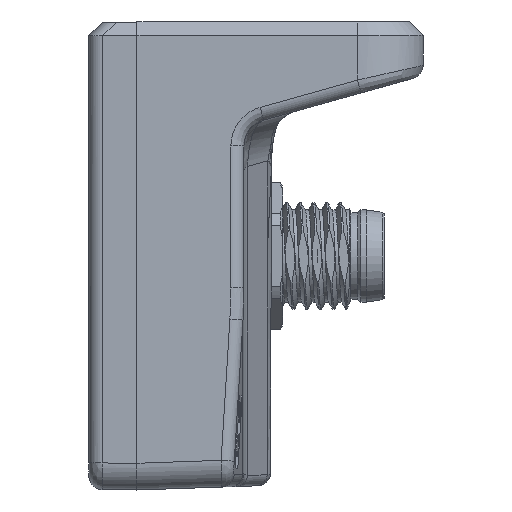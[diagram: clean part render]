
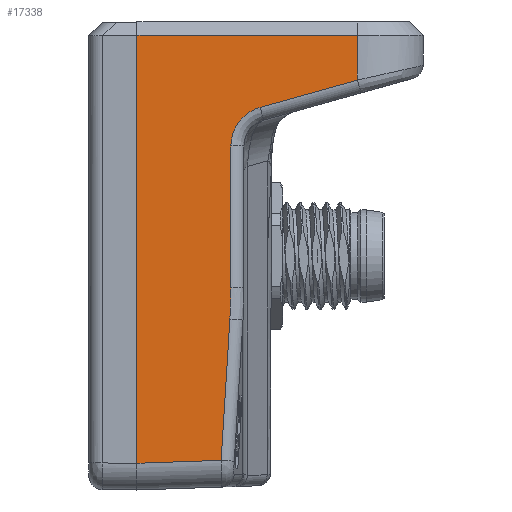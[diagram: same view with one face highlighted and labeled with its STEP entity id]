
A CAD part, left-side view. The second image highlights one B-rep face of the part: STEP entity #17338.
In plain terms, the highlighted planar face has unit normal (-1, -0.018, 0).
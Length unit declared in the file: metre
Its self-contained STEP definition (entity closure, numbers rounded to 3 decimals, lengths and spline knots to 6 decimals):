
#753=ELLIPSE('',#18669,0.026874,0.019);
#754=ELLIPSE('',#18670,0.003,0.003);
#1148=LINE('',#26319,#2844);
#1162=LINE('',#26378,#2858);
#1163=LINE('',#26381,#2859);
#1164=LINE('',#26382,#2860);
#1165=LINE('',#26384,#2861);
#1166=LINE('',#26388,#2862);
#1167=LINE('',#26392,#2863);
#2844=VECTOR('',#20974,1.);
#2858=VECTOR('',#21004,1.);
#2859=VECTOR('',#21005,1.);
#2860=VECTOR('',#21006,1.);
#2861=VECTOR('',#21007,1.);
#2862=VECTOR('',#21010,1.);
#2863=VECTOR('',#21013,1.);
#5062=ORIENTED_EDGE('',*,*,#9915,.T.);
#5063=ORIENTED_EDGE('',*,*,#9916,.T.);
#5064=ORIENTED_EDGE('',*,*,#9892,.T.);
#5065=ORIENTED_EDGE('',*,*,#9917,.T.);
#5066=ORIENTED_EDGE('',*,*,#9918,.T.);
#5067=ORIENTED_EDGE('',*,*,#9919,.T.);
#5068=ORIENTED_EDGE('',*,*,#9920,.T.);
#5069=ORIENTED_EDGE('',*,*,#9921,.T.);
#5070=ORIENTED_EDGE('',*,*,#9922,.T.);
#9892=EDGE_CURVE('',#12349,#12348,#1148,.T.);
#9915=EDGE_CURVE('',#12370,#12371,#1162,.F.);
#9916=EDGE_CURVE('',#12371,#12349,#1163,.T.);
#9917=EDGE_CURVE('',#12348,#12372,#1164,.F.);
#9918=EDGE_CURVE('',#12372,#12373,#1165,.F.);
#9919=EDGE_CURVE('',#12373,#12374,#753,.F.);
#9920=EDGE_CURVE('',#12374,#12375,#1166,.T.);
#9921=EDGE_CURVE('',#12375,#12376,#754,.T.);
#9922=EDGE_CURVE('',#12376,#12370,#1167,.F.);
#12348=VERTEX_POINT('',#26318);
#12349=VERTEX_POINT('',#26320);
#12370=VERTEX_POINT('',#26379);
#12371=VERTEX_POINT('',#26380);
#12372=VERTEX_POINT('',#26383);
#12373=VERTEX_POINT('',#26385);
#12374=VERTEX_POINT('',#26387);
#12375=VERTEX_POINT('',#26389);
#12376=VERTEX_POINT('',#26391);
#14337=EDGE_LOOP('',(#5062,#5063,#5064,#5065,#5066,#5067,#5068,#5069,#5070));
#15571=FACE_BOUND('',#14337,.T.);
#16665=PLANE('',#18668);
#17338=ADVANCED_FACE('',(#15571),#16665,.F.);
#18668=AXIS2_PLACEMENT_3D('',#26377,#21002,#21003);
#18669=AXIS2_PLACEMENT_3D('',#26386,#21008,#21009);
#18670=AXIS2_PLACEMENT_3D('',#26390,#21011,#21012);
#20974=DIRECTION('',(0.,0.,-1.));
#21002=DIRECTION('',(1.,0.017,0.));
#21003=DIRECTION('',(-0.017,1.,0.));
#21004=DIRECTION('',(0.,0.,-1.));
#21005=DIRECTION('',(-0.017,1.,0.));
#21006=DIRECTION('',(-0.017,0.999,-0.035));
#21007=DIRECTION('',(-0.001,0.062,-0.998));
#21008=DIRECTION('',(1.,0.017,0.));
#21009=DIRECTION('',(0.,-0.017,-1.));
#21010=DIRECTION('',(0.,0.,1.));
#21011=DIRECTION('',(1.,0.017,0.));
#21012=DIRECTION('',(-0.017,1.,0.));
#21013=DIRECTION('',(-0.017,0.963,-0.27));
#26318=CARTESIAN_POINT('',(-0.0825,0.,-0.0155));
#26319=CARTESIAN_POINT('',(-0.0825,0.,0.));
#26320=CARTESIAN_POINT('',(-0.0825,0.,0.0165));
#26377=CARTESIAN_POINT('',(-0.082313,-0.0107,0.017502));
#26378=CARTESIAN_POINT('',(-0.082212,-0.016487,0.017502));
#26379=CARTESIAN_POINT('',(-0.082212,-0.016487,0.013156));
#26380=CARTESIAN_POINT('',(-0.082212,-0.016487,0.0165));
#26381=CARTESIAN_POINT('',(-0.0825,0.,0.0165));
#26382=CARTESIAN_POINT('',(-0.082377,-0.007025,-0.015255));
#26383=CARTESIAN_POINT('',(-0.08239,-0.006292,-0.01528));
#26384=CARTESIAN_POINT('',(-0.082378,-0.007002,-0.003811));
#26385=CARTESIAN_POINT('',(-0.082379,-0.006945,-0.004728));
#26386=CARTESIAN_POINT('',(-0.082709,0.011983,-0.002056));
#26387=CARTESIAN_POINT('',(-0.082378,-0.007017,-0.002387));
#26388=CARTESIAN_POINT('',(-0.082378,-0.007017,0.008227));
#26389=CARTESIAN_POINT('',(-0.082378,-0.007017,0.008227));
#26390=CARTESIAN_POINT('',(-0.082325,-0.010017,0.008227));
#26391=CARTESIAN_POINT('',(-0.082339,-0.009208,0.011115));
#26392=CARTESIAN_POINT('',(-0.082286,-0.012251,0.011969));
